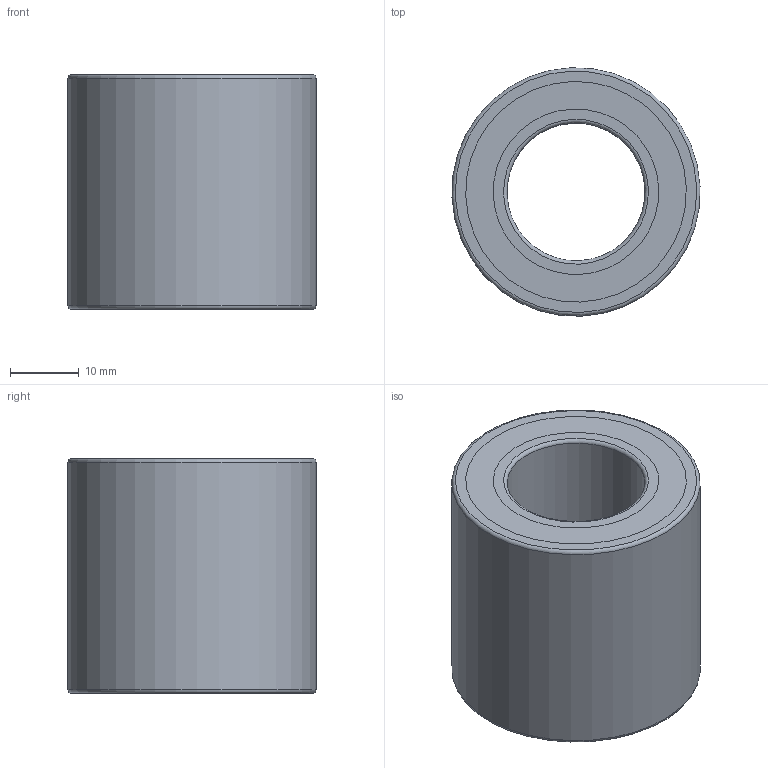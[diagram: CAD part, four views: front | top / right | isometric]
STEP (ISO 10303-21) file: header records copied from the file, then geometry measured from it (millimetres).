
FILE_DESCRIPTION(/* description */ (''),/* implementation_level */ '2;1');
FILE_NAME(/* name */ '306519 FPD 432 Z.stp',/* time_stamp */ '2016-11-03T13:55:00+01:00',/* author */ (''),/* organization */ (''),/* preprocessor_version */ 'ST-DEVELOPER v15',/* originating_system */ 'SIEMENS PLM Software NX 8.5',/* authorisation */ '');
FILE_SCHEMA (('CONFIG_CONTROL_DESIGN'));
Length unit declared in the file: millimetre
Products named in the file (3): ATE0000080_01; ATE0000078_01; ATE0000090_01
Assembly tree (2 placements, depth 2):
  ATE0000090_01
    ATE0000078_01
    ATE0000080_01
Bounding box: 35.97 x 35.97 x 34 mm (x, y, z)
Volume: 19530.4 mm3; surface area: 20054 mm2
Topology: 5 solids, 5 shells, 76 faces, 162 edges, 106 vertices
Faces by surface type: plane 46, cylinder 24, torus 6
Full cylindrical faces by diameter (mm): 20 x1, 24 x5, 28 x1, 30 x1, 31 x2, 32 x5, 36 x1
Entity records: 2212 total; most frequent: DIRECTION 358, CARTESIAN_POINT 311, ORIENTED_EDGE 264, AXIS2_PLACEMENT_3D 147, EDGE_CURVE 132, EDGE_LOOP 120, VERTEX_POINT 100, FACE_BOUND 80
